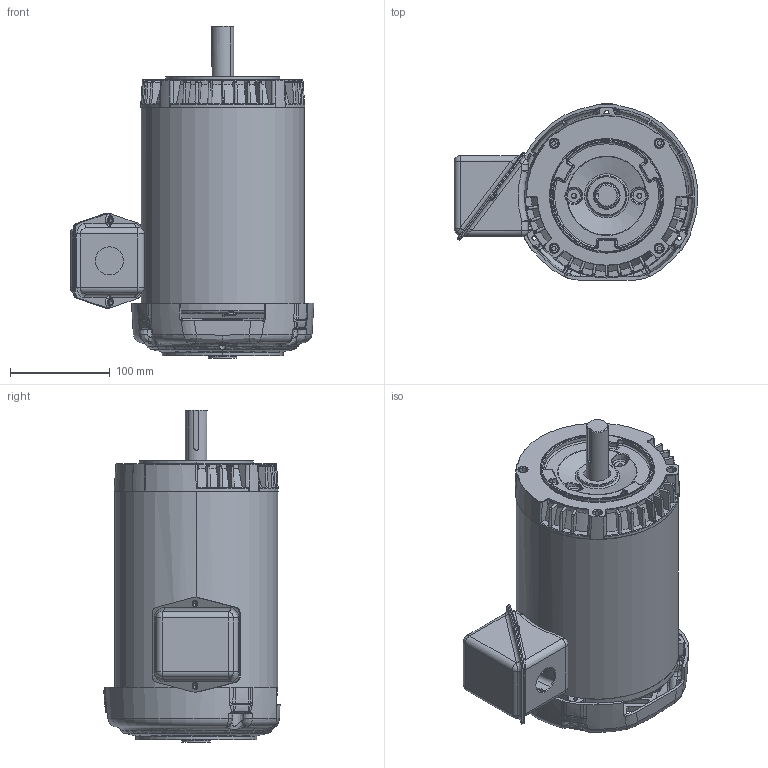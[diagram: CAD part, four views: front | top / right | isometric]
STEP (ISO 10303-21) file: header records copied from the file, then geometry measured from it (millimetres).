
FILE_DESCRIPTION((''),'2;1');
FILE_NAME('140TC_UTEF_7750_ASM','2015-07-09T',('NMC2342'),('Nidec Motor Corporation'),'PRO/ENGINEER BY PARAMETRIC TECHNOLOGY CORPORATION, 2013150','PRO/ENGINEER BY PARAMETRIC TECHNOLOGY CORPORATION, 2013150','');
FILE_SCHEMA(('CONFIG_CONTROL_DESIGN'));
Length unit declared in the file: inch
Products named in the file (13): FRAME; 0387280-BKT_AF0; I20258935000_AF0; 0387281_ASM; C18747690_ENCL_AF3; C18747690_INS4_AF10; S33749499_002_ASM; 0774783; 0343740; 0399601; 0912536; 0470137; 140TC_UTEF_7750_ASM
Assembly tree (12 placements, depth 3):
  140TC_UTEF_7750_ASM
    FRAME
    0387281_ASM
      0387280-BKT_AF0
      I20258935000_AF0
    S33749499_002_ASM
      C18747690_ENCL_AF3
      C18747690_INS4_AF10
    0774783
    0343740
    0399601
    0912536
    0470137
Bounding box: 244.71 x 176.8 x 333.31 mm (x, y, z)
Volume: 843599.4 mm3; surface area: 566275.2 mm2
Topology: 12 solids, 12 shells, 2879 faces, 7077 edges, 4217 vertices
Faces by surface type: bspline 1107, plane 531, cylinder 483, torus 350, cone 290, sphere 104, extrusion 12, revolution 2
Entity records: 128593 total; most frequent: CARTESIAN_POINT 68609, ORIENTED_EDGE 14130, DIRECTION 10526, EDGE_CURVE 7065, AXIS2_PLACEMENT_3D 4546, VERTEX_POINT 4217, EDGE_LOOP 3006, B_SPLINE_CURVE_WITH_KNOTS 2900
